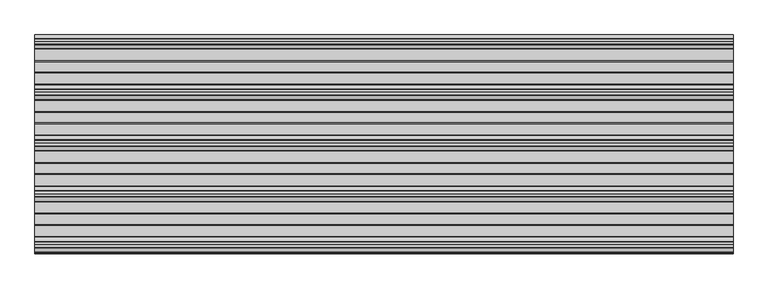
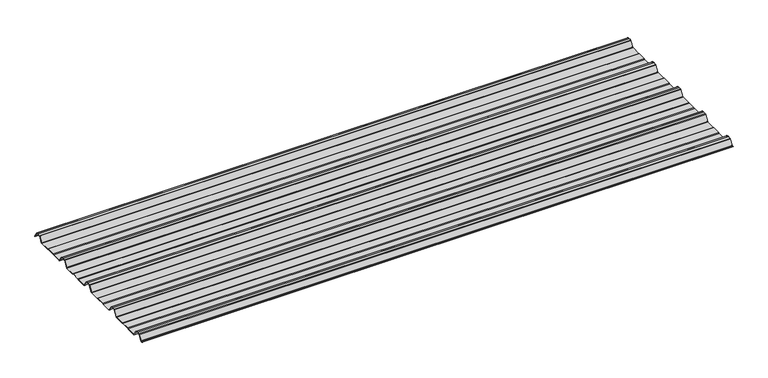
"""IFC4 building model written with IfcOpenShell, lengths in millimetres: beam geometry, 3D_Metalcraft T-Rib : 3D_Metalcraft T-Rib."""

from ifc_helpers import new_model, si_unit, point, frame, frame_2d, origin, place, context, project, spatial, polyline, circle_curve, trimmed, segment, composite_curve, outline, extrude, source, transform, mapped, element, save


def beam_1c965193(model_context):
    return source(origin(), model_context, "Body", "SweptSolid", [
        extrude(outline(composite_curve([segment(polyline([(-72.2377386, -25.7896475), (-76.3538889, -24.06703), (-113.6461111, -24.06703), (-117.7622614, -25.7896475), (-160.0, -25.7896475)]), True, "CONTINUOUS"), segment(trimmed(circle_curve(frame_2d((-159.2196788, -21.4509358)), 4.4083239), [point((-160.0, -25.7896475))], [point((-162.8209858, -23.9933574))], False, "CARTESIAN"), True, "CONTINUOUS"), segment(polyline([(-162.8209858, -23.9933574), (-178.3273257, -0.5940367)]), True, "CONTINUOUS"), segment(trimmed(circle_curve(frame_2d((-180.8929255, -2.3855242)), 3.1291741), [point((-178.3273257, -0.5940367))], [point((-179.9028031, 0.582874))], True, "CARTESIAN"), True, "CONTINUOUS"), segment(trimmed(circle_curve(frame_2d((-189.9940851, -29.8891871)), 32.0995402), [point((-179.9028031, 0.582874))], [point((-190.0, 2.2103525))], True, "CARTESIAN"), True, "CONTINUOUS"), segment(trimmed(circle_curve(frame_2d((-190.0059149, -29.8891871)), 32.0995402), [point((-190.0, 2.2103525))], [point((-200.0971969, 0.582874))], True, "CARTESIAN"), True, "CONTINUOUS"), segment(trimmed(circle_curve(frame_2d((-199.1070745, -2.3855242)), 3.1291741), [point((-200.0971969, 0.582874))], [point((-201.6726743, -0.5940367))], True, "CARTESIAN"), True, "CONTINUOUS"), segment(polyline([(-201.6726743, -0.5940367), (-217.1790142, -23.9933574)]), True, "CONTINUOUS"), segment(trimmed(circle_curve(frame_2d((-220.7803212, -21.4509358)), 4.4083239), [point((-217.1790142, -23.9933574))], [point((-220.0, -25.7896475))], False, "CARTESIAN"), True, "CONTINUOUS"), segment(polyline([(-220.0, -25.7896475), (-262.2377386, -25.7896475), (-266.3538889, -24.06703), (-303.6461111, -24.06703), (-307.7622614, -25.7896475), (-350.0, -25.7896475)]), True, "CONTINUOUS"), segment(trimmed(circle_curve(frame_2d((-349.2196788, -21.4509358)), 4.4083239), [point((-350.0, -25.7896475))], [point((-352.8209858, -23.9933574))], False, "CARTESIAN"), True, "CONTINUOUS"), segment(polyline([(-352.8209858, -23.9933574), (-368.3273257, -0.5940367)]), True, "CONTINUOUS"), segment(trimmed(circle_curve(frame_2d((-370.8929255, -2.3855242)), 3.1291741), [point((-368.3273257, -0.5940367))], [point((-369.9028031, 0.582874))], True, "CARTESIAN"), True, "CONTINUOUS"), segment(trimmed(circle_curve(frame_2d((-379.9940851, -29.8891871)), 32.0995402), [point((-369.9028031, 0.582874))], [point((-380.0, 2.2103525))], True, "CARTESIAN"), True, "CONTINUOUS"), segment(trimmed(circle_curve(frame_2d((-380.0059149, -29.8891871)), 32.0995402), [point((-380.0, 2.2103525))], [point((-390.0971969, 0.582874))], True, "CARTESIAN"), True, "CONTINUOUS"), segment(trimmed(circle_curve(frame_2d((-389.1070745, -2.3855242)), 3.1291741), [point((-390.0971969, 0.582874))], [point((-391.6726743, -0.5940367))], True, "CARTESIAN"), True, "CONTINUOUS"), segment(polyline([(-391.6726743, -0.5940367), (-407.1790142, -23.9933574)]), True, "CONTINUOUS"), segment(trimmed(circle_curve(frame_2d((-410.7803212, -21.4509358)), 4.4083239), [point((-407.1790142, -23.9933574))], [point((-410.0, -25.7896475))], False, "CARTESIAN"), True, "CONTINUOUS"), segment(polyline([(-410.0, -25.7896475), (-452.2377387, -25.7896475), (-456.3538889, -24.06703), (-493.6461111, -24.06703), (-497.7622614, -25.7896475), (-540.0, -25.7896475)]), True, "CONTINUOUS"), segment(trimmed(circle_curve(frame_2d((-539.2196788, -21.4509358)), 4.4083239), [point((-540.0, -25.7896475))], [point((-542.8209858, -23.9933574))], False, "CARTESIAN"), True, "CONTINUOUS"), segment(polyline([(-542.8209858, -23.9933574), (-558.3273257, -0.5940367)]), True, "CONTINUOUS"), segment(trimmed(circle_curve(frame_2d((-560.8929255, -2.3855242)), 3.1291741), [point((-558.3273257, -0.5940367))], [point((-559.9028031, 0.582874))], True, "CARTESIAN"), True, "CONTINUOUS"), segment(trimmed(circle_curve(frame_2d((-569.9940851, -29.8891871)), 32.0995402), [point((-559.9028031, 0.582874))], [point((-570.0, 2.2103525))], True, "CARTESIAN"), True, "CONTINUOUS"), segment(trimmed(circle_curve(frame_2d((-570.0059149, -29.8891871)), 32.0995402), [point((-570.0, 2.2103525))], [point((-580.0971969, 0.582874))], True, "CARTESIAN"), True, "CONTINUOUS"), segment(trimmed(circle_curve(frame_2d((-579.1070745, -2.3855242)), 3.1291741), [point((-580.0971969, 0.582874))], [point((-581.6726743, -0.5940367))], True, "CARTESIAN"), True, "CONTINUOUS"), segment(polyline([(-581.6726743, -0.5940367), (-597.1790142, -23.9933574)]), True, "CONTINUOUS"), segment(trimmed(circle_curve(frame_2d((-600.7803212, -21.4509358)), 4.4083239), [point((-597.1790142, -23.9933574))], [point((-600.0, -25.7896475))], False, "CARTESIAN"), True, "CONTINUOUS"), segment(polyline([(-600.0, -25.7896475), (-642.2377387, -25.7896475), (-646.3538889, -24.06703), (-683.6461111, -24.06703), (-687.7622614, -25.7896475), (-730.0, -25.7896475)]), True, "CONTINUOUS"), segment(trimmed(circle_curve(frame_2d((-729.2196788, -21.4509358)), 4.4083239), [point((-730.0, -25.7896475))], [point((-732.8209858, -23.9933574))], False, "CARTESIAN"), True, "CONTINUOUS"), segment(polyline([(-732.8209858, -23.9933574), (-748.3273257, -0.5940367)]), True, "CONTINUOUS"), segment(trimmed(circle_curve(frame_2d((-750.8929255, -2.3855242)), 3.1291741), [point((-748.3273257, -0.5940367))], [point((-749.9028031, 0.582874))], True, "CARTESIAN"), True, "CONTINUOUS"), segment(trimmed(circle_curve(frame_2d((-759.9940851, -29.8891871)), 32.0995402), [point((-749.9028031, 0.582874))], [point((-760.0, 2.2103525))], True, "CARTESIAN"), True, "CONTINUOUS"), segment(trimmed(circle_curve(frame_2d((-760.0059149, -29.8891871)), 32.0995402), [point((-760.0, 2.2103525))], [point((-770.0971969, 0.582874))], True, "CARTESIAN"), True, "CONTINUOUS"), segment(trimmed(circle_curve(frame_2d((-769.1070745, -2.3855242)), 3.1291741), [point((-770.0971969, 0.582874))], [point((-771.6726743, -0.5940367))], True, "CARTESIAN"), True, "CONTINUOUS"), segment(polyline([(-771.6726743, -0.5940367), (-785.8536479, -21.993358)]), True, "CONTINUOUS"), segment(trimmed(circle_curve(frame_2d((-789.4549545, -19.4509358)), 4.4083239), [point((-785.8536479, -21.993358))], [point((-788.6746333, -23.7896475))], False, "CARTESIAN"), True, "CONTINUOUS"), segment(polyline([(-788.6746333, -23.7896475), (-792.3232685, -23.7896475)]), True, "CONTINUOUS"), segment(trimmed(circle_curve(frame_2d((-792.3232685, -23.2896475)), 0.5), [point((-792.3232685, -23.7896475))], [point((-792.3232685, -22.7896475))], False, "CARTESIAN"), True, "CONTINUOUS"), segment(polyline([(-792.3232685, -22.7896475), (-788.769625, -22.7896475)]), True, "CONTINUOUS"), segment(trimmed(circle_curve(frame_2d((-789.4549545, -19.4509358)), 3.4083239), [point((-788.769625, -22.7896475))], [point((-786.6785605, -21.42788))], True, "CARTESIAN"), True, "CONTINUOUS"), segment(polyline([(-786.6785605, -21.42788), (-772.5, -0.0322)]), True, "CONTINUOUS"), segment(trimmed(circle_curve(frame_2d((-769.1070745, -2.3855242)), 4.1291741), [point((-772.5, -0.0322))], [point((-770.41253, 1.5318556))], False, "CARTESIAN"), True, "CONTINUOUS"), segment(trimmed(circle_curve(frame_2d((-760.0059149, -29.8891871)), 33.0995402), [point((-770.41253, 1.5318556))], [point((-760.0, 3.2103525))], False, "CARTESIAN"), True, "CONTINUOUS"), segment(trimmed(circle_curve(frame_2d((-759.9940851, -29.8891871)), 33.0995402), [point((-760.0, 3.2103525))], [point((-749.58747, 1.5318556))], False, "CARTESIAN"), True, "CONTINUOUS"), segment(trimmed(circle_curve(frame_2d((-750.8929255, -2.3855242)), 4.1291741), [point((-749.58747, 1.5318556))], [point((-747.5, -0.0322))], False, "CARTESIAN"), True, "CONTINUOUS"), segment(polyline([(-747.5, -0.0322), (-732.1223092, -23.2373872)]), True, "CONTINUOUS"), segment(trimmed(circle_curve(frame_2d((-729.2196788, -21.4509358)), 3.4083239), [point((-732.1223092, -23.2373872))], [point((-729.9050084, -24.7896475))], True, "CARTESIAN"), True, "CONTINUOUS"), segment(polyline([(-729.9050084, -24.7896475), (-687.9630742, -24.7896475), (-683.846924, -23.06703), (-646.1530761, -23.06703), (-642.0369258, -24.7896475), (-600.0949917, -24.7896475)]), True, "CONTINUOUS"), segment(trimmed(circle_curve(frame_2d((-600.7803212, -21.4509358)), 3.4083239), [point((-600.0949917, -24.7896475))], [point((-597.8776908, -23.2373872))], True, "CARTESIAN"), True, "CONTINUOUS"), segment(polyline([(-597.8776908, -23.2373872), (-582.5, -0.0322)]), True, "CONTINUOUS"), segment(trimmed(circle_curve(frame_2d((-579.1070745, -2.3855242)), 4.1291741), [point((-582.5, -0.0322))], [point((-580.41253, 1.5318556))], False, "CARTESIAN"), True, "CONTINUOUS"), segment(trimmed(circle_curve(frame_2d((-570.0059149, -29.8891871)), 33.0995402), [point((-580.41253, 1.5318556))], [point((-570.0, 3.2103525))], False, "CARTESIAN"), True, "CONTINUOUS"), segment(trimmed(circle_curve(frame_2d((-569.9940851, -29.8891871)), 33.0995402), [point((-570.0, 3.2103525))], [point((-559.58747, 1.5318556))], False, "CARTESIAN"), True, "CONTINUOUS"), segment(trimmed(circle_curve(frame_2d((-560.8929255, -2.3855242)), 4.1291741), [point((-559.58747, 1.5318556))], [point((-557.5, -0.0322))], False, "CARTESIAN"), True, "CONTINUOUS"), segment(polyline([(-557.5, -0.0322), (-542.1223092, -23.2373872)]), True, "CONTINUOUS"), segment(trimmed(circle_curve(frame_2d((-539.2196788, -21.4509358)), 3.4083239), [point((-542.1223092, -23.2373872))], [point((-539.9050084, -24.7896475))], True, "CARTESIAN"), True, "CONTINUOUS"), segment(polyline([(-539.9050084, -24.7896475), (-497.9630742, -24.7896475), (-493.846924, -23.06703), (-456.1530761, -23.06703), (-452.0369258, -24.7896475), (-410.0949917, -24.7896475)]), True, "CONTINUOUS"), segment(trimmed(circle_curve(frame_2d((-410.7803212, -21.4509358)), 3.4083239), [point((-410.0949917, -24.7896475))], [point((-407.8776908, -23.2373872))], True, "CARTESIAN"), True, "CONTINUOUS"), segment(polyline([(-407.8776908, -23.2373872), (-392.5, -0.0322)]), True, "CONTINUOUS"), segment(trimmed(circle_curve(frame_2d((-389.1070745, -2.3855242)), 4.1291741), [point((-392.5, -0.0322))], [point((-390.41253, 1.5318556))], False, "CARTESIAN"), True, "CONTINUOUS"), segment(trimmed(circle_curve(frame_2d((-380.0059149, -29.8891871)), 33.0995402), [point((-390.41253, 1.5318556))], [point((-380.0, 3.2103525))], False, "CARTESIAN"), True, "CONTINUOUS"), segment(trimmed(circle_curve(frame_2d((-379.9940851, -29.8891871)), 33.0995402), [point((-380.0, 3.2103525))], [point((-369.58747, 1.5318556))], False, "CARTESIAN"), True, "CONTINUOUS"), segment(trimmed(circle_curve(frame_2d((-370.8929255, -2.3855242)), 4.1291741), [point((-369.58747, 1.5318556))], [point((-367.5, -0.0322))], False, "CARTESIAN"), True, "CONTINUOUS"), segment(polyline([(-367.5, -0.0322), (-352.1223092, -23.2373872)]), True, "CONTINUOUS"), segment(trimmed(circle_curve(frame_2d((-349.2196788, -21.4509358)), 3.4083239), [point((-352.1223092, -23.2373872))], [point((-349.9050084, -24.7896475))], True, "CARTESIAN"), True, "CONTINUOUS"), segment(polyline([(-349.9050084, -24.7896475), (-307.9630742, -24.7896475), (-303.846924, -23.06703), (-266.153076, -23.06703), (-262.0369258, -24.7896475), (-220.0949917, -24.7896475)]), True, "CONTINUOUS"), segment(trimmed(circle_curve(frame_2d((-220.7803212, -21.4509358)), 3.4083239), [point((-220.0949917, -24.7896475))], [point((-217.8776908, -23.2373872))], True, "CARTESIAN"), True, "CONTINUOUS"), segment(polyline([(-217.8776908, -23.2373872), (-202.5, -0.0322)]), True, "CONTINUOUS"), segment(trimmed(circle_curve(frame_2d((-199.1070745, -2.3855242)), 4.1291741), [point((-202.5, -0.0322))], [point((-200.41253, 1.5318556))], False, "CARTESIAN"), True, "CONTINUOUS"), segment(trimmed(circle_curve(frame_2d((-190.0059149, -29.8891871)), 33.0995402), [point((-200.41253, 1.5318556))], [point((-190.0, 3.2103525))], False, "CARTESIAN"), True, "CONTINUOUS"), segment(trimmed(circle_curve(frame_2d((-189.9940851, -29.8891871)), 33.0995402), [point((-190.0, 3.2103525))], [point((-179.58747, 1.5318556))], False, "CARTESIAN"), True, "CONTINUOUS"), segment(trimmed(circle_curve(frame_2d((-180.8929255, -2.3855242)), 4.1291741), [point((-179.58747, 1.5318556))], [point((-177.5, -0.0322))], False, "CARTESIAN"), True, "CONTINUOUS"), segment(polyline([(-177.5, -0.0322), (-162.1223092, -23.2373872)]), True, "CONTINUOUS"), segment(trimmed(circle_curve(frame_2d((-159.2196788, -21.4509358)), 3.4083239), [point((-162.1223092, -23.2373872))], [point((-159.9050084, -24.7896475))], True, "CARTESIAN"), True, "CONTINUOUS"), segment(polyline([(-159.9050084, -24.7896475), (-117.9630742, -24.7896475), (-113.846924, -23.06703), (-76.153076, -23.06703), (-72.0369258, -24.7896475), (-27.6957008, -24.7896475)]), True, "CONTINUOUS"), segment(trimmed(circle_curve(frame_2d((-28.3810303, -21.4509358)), 3.4083239), [point((-27.6957008, -24.7896475))], [point((-25.6046359, -23.4278795))], True, "CARTESIAN"), True, "CONTINUOUS"), segment(polyline([(-25.6046359, -23.4278795), (-10.8390947, -1.146436)]), True, "CONTINUOUS"), segment(trimmed(circle_curve(frame_2d((-9.2408211, -2.2055853)), 1.9173616), [point((-10.8390947, -1.146436))], [point((-9.7828223, -0.366425))], False, "CARTESIAN"), True, "CONTINUOUS"), segment(trimmed(circle_curve(frame_2d((-0.0059149, -29.8891871)), 31.0995402), [point((-9.7828223, -0.366425))], [point((0.0, 1.2103525))], False, "CARTESIAN"), True, "CONTINUOUS"), segment(trimmed(circle_curve(frame_2d((0.0059149, -29.8891871)), 31.0995402), [point((0.0, 1.2103525))], [point((9.7828223, -0.366425))], False, "CARTESIAN"), True, "CONTINUOUS"), segment(trimmed(circle_curve(frame_2d((9.2408211, -2.2055853)), 1.9173616), [point((9.7828223, -0.366425))], [point((10.8390947, -1.146436))], False, "CARTESIAN"), True, "CONTINUOUS"), segment(polyline([(10.8390947, -1.146436), (25.1846039, -22.7940443)]), True, "CONTINUOUS"), segment(trimmed(circle_curve(frame_2d((24.7678141, -23.0702439)), 0.5), [point((25.1846039, -22.7940443))], [point((24.3510243, -23.3464436))], False, "CARTESIAN"), True, "CONTINUOUS"), segment(polyline([(24.3510243, -23.3464436), (10.1734573, -1.9522629)]), True, "CONTINUOUS"), segment(trimmed(circle_curve(frame_2d((8.6614124, -2.9542699)), 1.8139178), [point((10.1734573, -1.9522629))], [point((9.071517, -1.18732))], True, "CARTESIAN"), True, "CONTINUOUS"), segment(trimmed(circle_curve(frame_2d((0.0059149, -29.8891871)), 30.0995402), [point((9.071517, -1.18732))], [point((0.0, 0.2103525))], True, "CARTESIAN"), True, "CONTINUOUS"), segment(trimmed(circle_curve(frame_2d((-0.0059149, -29.8891871)), 30.0995402), [point((0.0, 0.2103525))], [point((-9.071517, -1.18732))], True, "CARTESIAN"), True, "CONTINUOUS"), segment(trimmed(circle_curve(frame_2d((-8.6614124, -2.9542699)), 1.8139178), [point((-9.071517, -1.18732))], [point((-10.1734573, -1.9522629))], True, "CARTESIAN"), True, "CONTINUOUS"), segment(polyline([(-10.1734573, -1.9522629), (-24.7797233, -23.9933574)]), True, "CONTINUOUS"), segment(trimmed(circle_curve(frame_2d((-28.3810303, -21.4509358)), 4.4083239), [point((-24.7797233, -23.9933574))], [point((-27.6007091, -25.7896475))], False, "CARTESIAN"), True, "CONTINUOUS"), segment(polyline([(-27.6007091, -25.7896475), (-72.2377386, -25.7896475)]), True, "CONTINUOUS")], self_intersect=False)), frame((-1305.1332383, 0.0, 0.0), z_axis=(1.0, 0.0, 0.0), x_axis=(0.0, 1.0, 0.0)), (0.0, 0.0, 1.0), 2610.2664766),
    ])


if __name__ == "__main__":
    model = new_model("IFC4")
    model_context = context("Model", 3, world=origin())
    ifc_project = project(units=[si_unit("LENGTHUNIT", "METRE", prefix="MILLI")], contexts=[model_context])
    site = spatial("IfcSite", under=ifc_project)
    building = spatial("IfcBuilding", under=site)
    placement = place(None, origin())
    beam_shape = beam_1c965193(model_context)
    element("IfcBeam", 1, ObjectType="3D_Metalcraft T-Rib : 3D_Metalcraft T-Rib", at=placement, inside=building, context=model_context, shape_type="MappedRepresentation", body=[
        mapped(beam_shape, transform((0.0, 0.0, 0.0), x_axis=(1.0, 0.0, 0.0), y_axis=(0.0, 1.0, 0.0), z_axis=(0.0, 0.0, 1.0))),
    ])
    save(model, "model.ifc")
